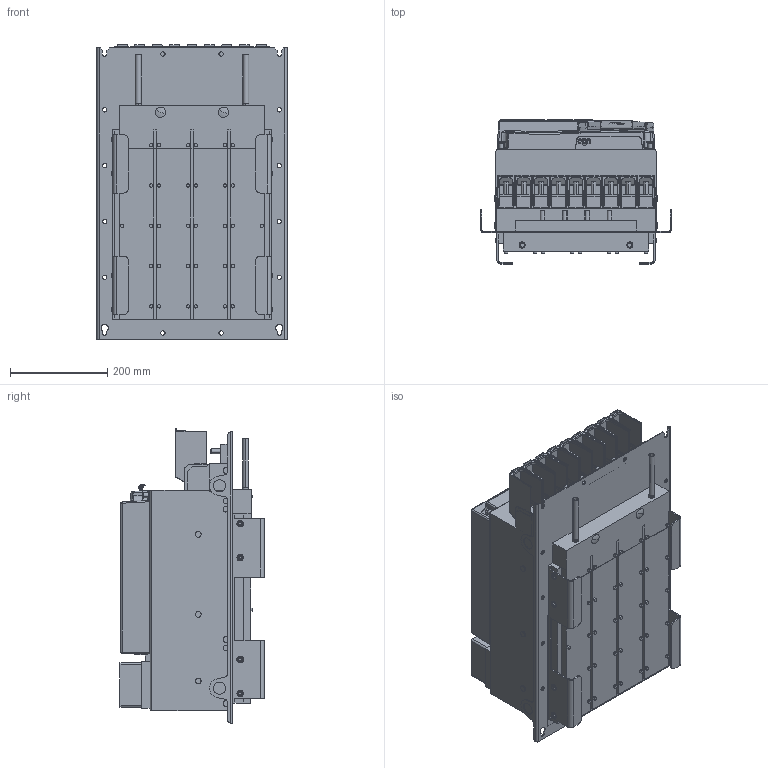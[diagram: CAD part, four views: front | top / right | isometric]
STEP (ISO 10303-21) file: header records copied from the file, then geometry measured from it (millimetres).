
FILE_DESCRIPTION (( 'STEP AP214' ), '1' );
FILE_NAME ('F6-7TW5-A031.STEP', '2021-03-02T12:57:55', ( '' ), ( '' ), 'SwSTEP 2.0', 'SolidWorks 2019', '' );
FILE_SCHEMA (( 'AUTOMOTIVE_DESIGN' ));
Length unit declared in the file: millimetre
Products named in the file (14): 10059764_000_Blindabdeckung (Kundenmodell); 10043622_000_70F6 Klemme (Kundenmodell); 10045475_000_Geh„usebaugruppe F6-7 (Kundenmodell); 10061506_000; 10059765_000; 10061522_000; 10061504_000_Gehеsebaugruppe ohne L’terkarte; 10061523_000; 10059763_000; 10060970_000_Leistungsteil + BW F6-7 TW5 (Kundenmodell); 10035736_000_Kundenmodell; 10061502_000_Deckel (Kundenmodell); 10061503_000; F6-7TW5-A031
Assembly tree (13 placements, depth 4):
  F6-7TW5-A031
    10060970_000_Leistungsteil + BW F6-7 TW5 (Kundenmodell)
      10043622_000_70F6 Klemme (Kundenmodell)
        10061522_000
      10061506_000
      10061523_000
    10045475_000_Geh„usebaugruppe F6-7 (Kundenmodell)
      10061502_000_Deckel (Kundenmodell)
        10061503_000
      10061504_000_Gehеsebaugruppe ohne L’terkarte
    10035736_000_Kundenmodell
      10059764_000_Blindabdeckung (Kundenmodell)
        10059765_000
      10059763_000
Bounding box: 392 x 296.9 x 606.26 mm (x, y, z)
Volume: 45757472.1 mm3; surface area: 2785687.1 mm2
Topology: 13 solids, 13 shells, 3689 faces, 9354 edges, 5773 vertices
Faces by surface type: plane 1845, cylinder 1177, bspline 286, sphere 176, torus 137, cone 68
Entity records: 118186 total; most frequent: CARTESIAN_POINT 30549, ORIENTED_EDGE 18486, DIRECTION 17512, EDGE_CURVE 9243, AXIS2_PLACEMENT_3D 5871, LINE 5770, VERTEX_POINT 5770, VECTOR 5770
